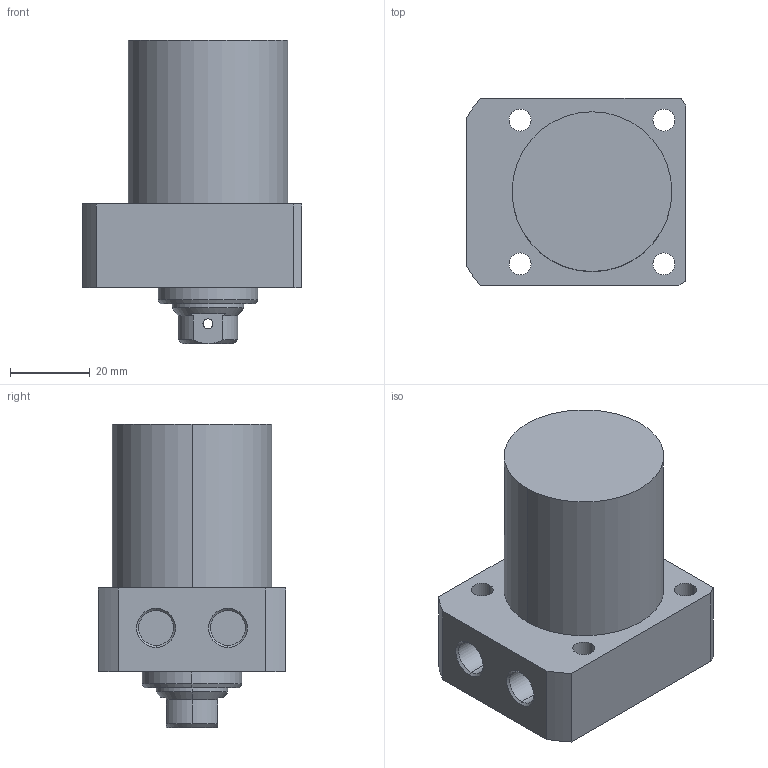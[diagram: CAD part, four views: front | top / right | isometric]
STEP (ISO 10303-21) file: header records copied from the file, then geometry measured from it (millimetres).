
FILE_DESCRIPTION (( 'STEP AP203' ), '1' );
FILE_NAME ('CLL-R040-CB-030.STEP', '2017-05-10T11:57:25', ( '' ), ( '' ), 'SwSTEP 2.0', 'SolidWorks 2015', '' );
FILE_SCHEMA (( 'CONFIG_CONTROL_DESIGN' ));
Length unit declared in the file: millimetre
Products named in the file (1): CLL-R040-CB-030
Bounding box: 55 x 47 x 76 mm (x, y, z)
Volume: 104556.5 mm3; surface area: 17645.3 mm2
Topology: 1 solids, 1 shells, 67 faces, 159 edges, 100 vertices
Faces by surface type: cylinder 33, plane 19, cone 15
Entity records: 2129 total; most frequent: CARTESIAN_POINT 441, DIRECTION 358, ORIENTED_EDGE 314, EDGE_CURVE 157, AXIS2_PLACEMENT_3D 145, VERTEX_POINT 100, EDGE_LOOP 87, CIRCLE 77
